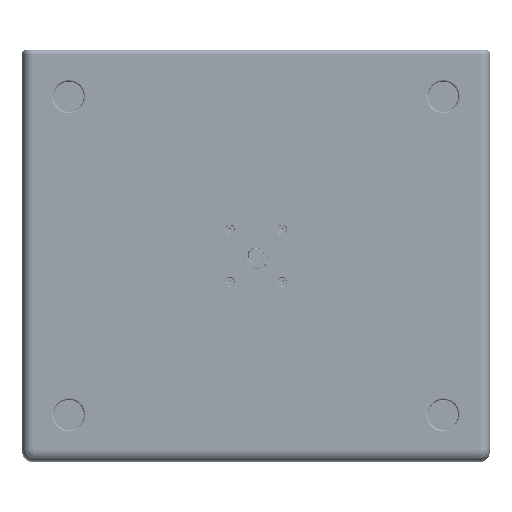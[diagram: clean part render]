
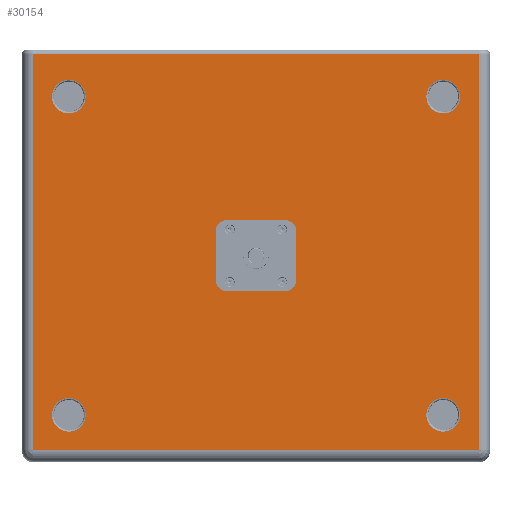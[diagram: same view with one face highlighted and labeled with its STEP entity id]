
A CAD part, top view. The second image highlights one B-rep face of the part: STEP entity #30154.
In plain terms, the highlighted planar face has unit normal (0, 0, 1) as drawn and (0, 1, 0) by its records, which use the part's own axes.
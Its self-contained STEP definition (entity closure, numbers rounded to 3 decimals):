
#23883=FACE_BOUND('',#44623,.T.);
#23884=FACE_BOUND('',#44624,.T.);
#23885=FACE_BOUND('',#44625,.T.);
#23886=FACE_BOUND('',#44626,.T.);
#23887=FACE_BOUND('',#44627,.T.);
#30154=ADVANCED_FACE('',(#37106,#23883,#23884,#23885,#23886,#23887),#138560,
 .T.);
#37106=FACE_OUTER_BOUND('',#44622,.T.);
#44622=EDGE_LOOP('',(#78395,#78396,#78397,#78398));
#44623=EDGE_LOOP('',(#78399,#78400));
#44624=EDGE_LOOP('',(#78401,#78402));
#44625=EDGE_LOOP('',(#78403,#78404));
#44626=EDGE_LOOP('',(#78405,#78406));
#44627=EDGE_LOOP('',(#78407,#78408,#78409,#78410,#78411,#78412,#78413,#78414));
#78395=ORIENTED_EDGE('',*,*,#98848,.F.);
#78396=ORIENTED_EDGE('',*,*,#98849,.F.);
#78397=ORIENTED_EDGE('',*,*,#98850,.F.);
#78398=ORIENTED_EDGE('',*,*,#98851,.F.);
#78399=ORIENTED_EDGE('',*,*,#98899,.F.);
#78400=ORIENTED_EDGE('',*,*,#98793,.F.);
#78401=ORIENTED_EDGE('',*,*,#98789,.F.);
#78402=ORIENTED_EDGE('',*,*,#98900,.F.);
#78403=ORIENTED_EDGE('',*,*,#98785,.F.);
#78404=ORIENTED_EDGE('',*,*,#98901,.F.);
#78405=ORIENTED_EDGE('',*,*,#98781,.F.);
#78406=ORIENTED_EDGE('',*,*,#98902,.F.);
#78407=ORIENTED_EDGE('',*,*,#98844,.F.);
#78408=ORIENTED_EDGE('',*,*,#98879,.F.);
#78409=ORIENTED_EDGE('',*,*,#98845,.F.);
#78410=ORIENTED_EDGE('',*,*,#98877,.F.);
#78411=ORIENTED_EDGE('',*,*,#98846,.F.);
#78412=ORIENTED_EDGE('',*,*,#98875,.F.);
#78413=ORIENTED_EDGE('',*,*,#98847,.F.);
#78414=ORIENTED_EDGE('',*,*,#98872,.F.);
#98781=EDGE_CURVE('',#133558,#133559,#118182,.T.);
#98785=EDGE_CURVE('',#133562,#133563,#118186,.T.);
#98789=EDGE_CURVE('',#133566,#133567,#118190,.T.);
#98793=EDGE_CURVE('',#133570,#133571,#118194,.T.);
#98844=EDGE_CURVE('',#133622,#133623,#113562,.T.);
#98845=EDGE_CURVE('',#133625,#133624,#113563,.T.);
#98846=EDGE_CURVE('',#133627,#133626,#113564,.T.);
#98847=EDGE_CURVE('',#133629,#133628,#113565,.T.);
#98848=EDGE_CURVE('',#133630,#133631,#113566,.T.);
#98849=EDGE_CURVE('',#133632,#133630,#113567,.T.);
#98850=EDGE_CURVE('',#133633,#133632,#113568,.T.);
#98851=EDGE_CURVE('',#133631,#133633,#113569,.T.);
#98872=EDGE_CURVE('',#133623,#133629,#118224,.T.);
#98875=EDGE_CURVE('',#133628,#133627,#118226,.T.);
#98877=EDGE_CURVE('',#133626,#133625,#118228,.T.);
#98879=EDGE_CURVE('',#133624,#133622,#118230,.T.);
#98899=EDGE_CURVE('',#133571,#133570,#118249,.T.);
#98900=EDGE_CURVE('',#133567,#133566,#118250,.T.);
#98901=EDGE_CURVE('',#133563,#133562,#118251,.T.);
#98902=EDGE_CURVE('',#133559,#133558,#118252,.T.);
#113562=B_SPLINE_CURVE_WITH_KNOTS('',1,(#276645,#276646),.UNSPECIFIED.,
 .F.,.F.,(2,2),(-62.,0.),.UNSPECIFIED.);
#113563=B_SPLINE_CURVE_WITH_KNOTS('',1,(#276647,#276648),.UNSPECIFIED.,
 .F.,.F.,(2,2),(-52.,0.),.UNSPECIFIED.);
#113564=B_SPLINE_CURVE_WITH_KNOTS('',1,(#276649,#276650),.UNSPECIFIED.,
 .F.,.F.,(2,2),(-62.,0.),.UNSPECIFIED.);
#113565=B_SPLINE_CURVE_WITH_KNOTS('',1,(#276651,#276652),.UNSPECIFIED.,
 .F.,.F.,(2,2),(-52.,0.),.UNSPECIFIED.);
#113566=B_SPLINE_CURVE_WITH_KNOTS('',1,(#276653,#276654),.UNSPECIFIED.,
 .F.,.F.,(2,2),(-423.,0.),.UNSPECIFIED.);
#113567=B_SPLINE_CURVE_WITH_KNOTS('',1,(#276655,#276656),.UNSPECIFIED.,
 .F.,.F.,(2,2),(-476.,0.),.UNSPECIFIED.);
#113568=B_SPLINE_CURVE_WITH_KNOTS('',1,(#276657,#276658),.UNSPECIFIED.,
 .F.,.F.,(2,2),(-423.,0.),.UNSPECIFIED.);
#113569=B_SPLINE_CURVE_WITH_KNOTS('',1,(#276659,#276660),.UNSPECIFIED.,
 .F.,.F.,(2,2),(-476.,0.),.UNSPECIFIED.);
#118182=TRIMMED_CURVE($,#122403,(#276487),(#276488),.T.,.CARTESIAN.);
#118186=TRIMMED_CURVE($,#122407,(#276499),(#276500),.T.,.CARTESIAN.);
#118190=TRIMMED_CURVE($,#122411,(#276511),(#276512),.T.,.CARTESIAN.);
#118194=TRIMMED_CURVE($,#122415,(#276523),(#276524),.T.,.CARTESIAN.);
#118224=TRIMMED_CURVE($,#122445,(#276711),(#276712),.T.,.CARTESIAN.);
#118226=TRIMMED_CURVE($,#122447,(#276719),(#276720),.T.,.CARTESIAN.);
#118228=TRIMMED_CURVE($,#122449,(#276725),(#276726),.T.,.CARTESIAN.);
#118230=TRIMMED_CURVE($,#122451,(#276731),(#276732),.T.,.CARTESIAN.);
#118249=TRIMMED_CURVE($,#122470,(#276790),(#276791),.T.,.CARTESIAN.);
#118250=TRIMMED_CURVE($,#122471,(#276793),(#276794),.T.,.CARTESIAN.);
#118251=TRIMMED_CURVE($,#122472,(#276796),(#276797),.T.,.CARTESIAN.);
#118252=TRIMMED_CURVE($,#122473,(#276799),(#276800),.T.,.CARTESIAN.);
#122403=CIRCLE('',#153152,18.);
#122407=CIRCLE('',#153156,18.);
#122411=CIRCLE('',#153160,18.);
#122415=CIRCLE('',#153164,18.);
#122445=CIRCLE('',#153194,12.);
#122447=CIRCLE('',#153196,12.);
#122449=CIRCLE('',#153198,12.);
#122451=CIRCLE('',#153200,12.);
#122470=CIRCLE('',#153219,18.);
#122471=CIRCLE('',#153220,18.);
#122472=CIRCLE('',#153221,18.);
#122473=CIRCLE('',#153222,18.);
#133558=VERTEX_POINT('',#276368);
#133559=VERTEX_POINT('',#276369);
#133562=VERTEX_POINT('',#276372);
#133563=VERTEX_POINT('',#276373);
#133566=VERTEX_POINT('',#276376);
#133567=VERTEX_POINT('',#276377);
#133570=VERTEX_POINT('',#276380);
#133571=VERTEX_POINT('',#276381);
#133622=VERTEX_POINT('',#276432);
#133623=VERTEX_POINT('',#276433);
#133624=VERTEX_POINT('',#276434);
#133625=VERTEX_POINT('',#276435);
#133626=VERTEX_POINT('',#276436);
#133627=VERTEX_POINT('',#276437);
#133628=VERTEX_POINT('',#276438);
#133629=VERTEX_POINT('',#276439);
#133630=VERTEX_POINT('',#276440);
#133631=VERTEX_POINT('',#276441);
#133632=VERTEX_POINT('',#276442);
#133633=VERTEX_POINT('',#276443);
#138560=PLANE('',#153103);
#153103=AXIS2_PLACEMENT_3D('',#275723,#166815,$);
#153152=AXIS2_PLACEMENT_3D($,#276486,#166868,#166869);
#153156=AXIS2_PLACEMENT_3D($,#276498,#166876,#166877);
#153160=AXIS2_PLACEMENT_3D($,#276510,#166884,#166885);
#153164=AXIS2_PLACEMENT_3D($,#276522,#166892,#166893);
#153194=AXIS2_PLACEMENT_3D($,#276710,#166952,#166953);
#153196=AXIS2_PLACEMENT_3D($,#276718,#166956,#166957);
#153198=AXIS2_PLACEMENT_3D($,#276724,#166960,#166961);
#153200=AXIS2_PLACEMENT_3D($,#276730,#166964,#166965);
#153219=AXIS2_PLACEMENT_3D($,#276789,#167002,#167003);
#153220=AXIS2_PLACEMENT_3D($,#276792,#167004,#167005);
#153221=AXIS2_PLACEMENT_3D($,#276795,#167006,#167007);
#153222=AXIS2_PLACEMENT_3D($,#276798,#167008,#167009);
#166815=DIRECTION('',(0.,1.,0.));
#166868=DIRECTION('',(0.,1.,0.));
#166869=DIRECTION('',(-1.,0.,0.));
#166876=DIRECTION('',(0.,1.,0.));
#166877=DIRECTION('',(-1.,0.,0.));
#166884=DIRECTION('',(0.,1.,0.));
#166885=DIRECTION('',(-1.,0.,0.));
#166892=DIRECTION('',(0.,1.,0.));
#166893=DIRECTION('',(-1.,0.,0.));
#166952=DIRECTION('',(0.,1.,0.));
#166953=DIRECTION('',(0.,0.,-1.));
#166956=DIRECTION('',(0.,1.,0.));
#166957=DIRECTION('',(-1.,0.,0.));
#166960=DIRECTION('',(0.,1.,0.));
#166961=DIRECTION('',(0.,0.,1.));
#166964=DIRECTION('',(0.,1.,0.));
#166965=DIRECTION('',(1.,0.,0.));
#167002=DIRECTION('',(0.,1.,0.));
#167003=DIRECTION('',(1.,0.,0.));
#167004=DIRECTION('',(0.,1.,0.));
#167005=DIRECTION('',(1.,0.,0.));
#167006=DIRECTION('',(0.,1.,0.));
#167007=DIRECTION('',(1.,0.,0.));
#167008=DIRECTION('',(0.,1.,0.));
#167009=DIRECTION('',(1.,0.,0.));
#275723=CARTESIAN_POINT('',(-285.6,6.,-37.3));
#276368=CARTESIAN_POINT('',(-218.,6.,50.));
#276369=CARTESIAN_POINT('',(-182.,6.,50.));
#276372=CARTESIAN_POINT('',(-218.,6.,390.));
#276373=CARTESIAN_POINT('',(-182.,6.,390.));
#276376=CARTESIAN_POINT('',(182.,6.,390.));
#276377=CARTESIAN_POINT('',(218.,6.,390.));
#276380=CARTESIAN_POINT('',(182.,6.,50.));
#276381=CARTESIAN_POINT('',(218.,6.,50.));
#276432=CARTESIAN_POINT('',(31.,6.,182.));
#276433=CARTESIAN_POINT('',(-31.,6.,182.));
#276434=CARTESIAN_POINT('',(43.,6.,194.));
#276435=CARTESIAN_POINT('',(43.,6.,246.));
#276436=CARTESIAN_POINT('',(31.,6.,258.));
#276437=CARTESIAN_POINT('',(-31.,6.,258.));
#276438=CARTESIAN_POINT('',(-43.,6.,246.));
#276439=CARTESIAN_POINT('',(-43.,6.,194.));
#276440=CARTESIAN_POINT('',(238.,6.,5.));
#276441=CARTESIAN_POINT('',(238.,6.,428.));
#276442=CARTESIAN_POINT('',(-238.,6.,5.));
#276443=CARTESIAN_POINT('',(-238.,6.,428.));
#276486=CARTESIAN_POINT('',(-200.,6.,50.));
#276487=CARTESIAN_POINT('',(-218.,6.,50.));
#276488=CARTESIAN_POINT('',(-182.,6.,50.));
#276498=CARTESIAN_POINT('',(-200.,6.,390.));
#276499=CARTESIAN_POINT('',(-218.,6.,390.));
#276500=CARTESIAN_POINT('',(-182.,6.,390.));
#276510=CARTESIAN_POINT('',(200.,6.,390.));
#276511=CARTESIAN_POINT('',(182.,6.,390.));
#276512=CARTESIAN_POINT('',(218.,6.,390.));
#276522=CARTESIAN_POINT('',(200.,6.,50.));
#276523=CARTESIAN_POINT('',(182.,6.,50.));
#276524=CARTESIAN_POINT('',(218.,6.,50.));
#276645=CARTESIAN_POINT('',(31.,6.,182.));
#276646=CARTESIAN_POINT('',(-31.,6.,182.));
#276647=CARTESIAN_POINT('',(43.,6.,246.));
#276648=CARTESIAN_POINT('',(43.,6.,194.));
#276649=CARTESIAN_POINT('',(-31.,6.,258.));
#276650=CARTESIAN_POINT('',(31.,6.,258.));
#276651=CARTESIAN_POINT('',(-43.,6.,194.));
#276652=CARTESIAN_POINT('',(-43.,6.,246.));
#276653=CARTESIAN_POINT('',(238.,6.,5.));
#276654=CARTESIAN_POINT('',(238.,6.,428.));
#276655=CARTESIAN_POINT('',(-238.,6.,5.));
#276656=CARTESIAN_POINT('',(238.,6.,5.));
#276657=CARTESIAN_POINT('',(-238.,6.,428.));
#276658=CARTESIAN_POINT('',(-238.,6.,5.));
#276659=CARTESIAN_POINT('',(238.,6.,428.));
#276660=CARTESIAN_POINT('',(-238.,6.,428.));
#276710=CARTESIAN_POINT('',(-31.,6.,194.));
#276711=CARTESIAN_POINT('',(-31.,6.,182.));
#276712=CARTESIAN_POINT('',(-43.,6.,194.));
#276718=CARTESIAN_POINT('',(-31.,6.,246.));
#276719=CARTESIAN_POINT('',(-43.,6.,246.));
#276720=CARTESIAN_POINT('',(-31.,6.,258.));
#276724=CARTESIAN_POINT('',(31.,6.,246.));
#276725=CARTESIAN_POINT('',(31.,6.,258.));
#276726=CARTESIAN_POINT('',(43.,6.,246.));
#276730=CARTESIAN_POINT('',(31.,6.,194.));
#276731=CARTESIAN_POINT('',(43.,6.,194.));
#276732=CARTESIAN_POINT('',(31.,6.,182.));
#276789=CARTESIAN_POINT('',(200.,6.,50.));
#276790=CARTESIAN_POINT('',(218.,6.,50.));
#276791=CARTESIAN_POINT('',(182.,6.,50.));
#276792=CARTESIAN_POINT('',(200.,6.,390.));
#276793=CARTESIAN_POINT('',(218.,6.,390.));
#276794=CARTESIAN_POINT('',(182.,6.,390.));
#276795=CARTESIAN_POINT('',(-200.,6.,390.));
#276796=CARTESIAN_POINT('',(-182.,6.,390.));
#276797=CARTESIAN_POINT('',(-218.,6.,390.));
#276798=CARTESIAN_POINT('',(-200.,6.,50.));
#276799=CARTESIAN_POINT('',(-182.,6.,50.));
#276800=CARTESIAN_POINT('',(-218.,6.,50.));
